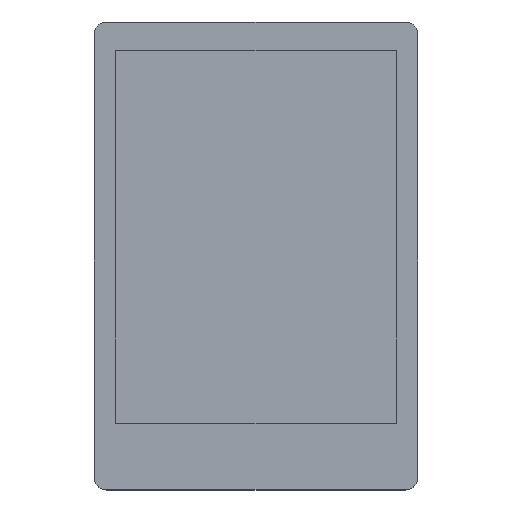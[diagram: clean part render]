
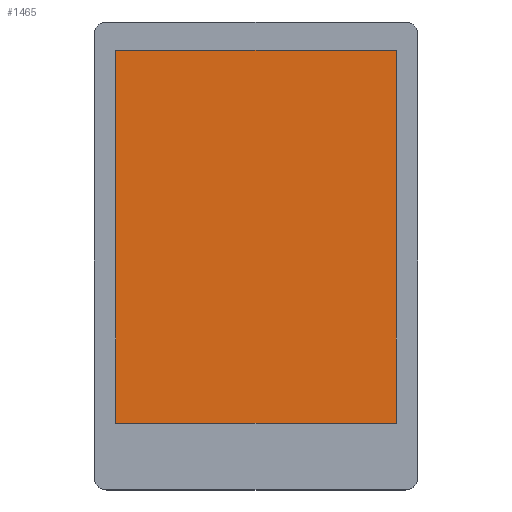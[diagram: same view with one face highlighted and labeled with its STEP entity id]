
A CAD part, top view. The second image highlights one B-rep face of the part: STEP entity #1465.
In plain terms, the highlighted planar face has unit normal (0, 0, 1).
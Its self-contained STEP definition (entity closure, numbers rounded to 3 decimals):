
#267=DIRECTION('',(1.,0.,0.));
#268=VECTOR('',#267,43.8);
#269=CARTESIAN_POINT('',(-21.9,29.1,0.65));
#270=LINE('',#269,#268);
#274=DIRECTION('',(0.,1.,0.));
#275=VECTOR('',#274,58.2);
#276=CARTESIAN_POINT('',(21.9,-29.1,0.65));
#277=LINE('',#276,#275);
#281=DIRECTION('',(1.,0.,0.));
#282=VECTOR('',#281,43.8);
#283=CARTESIAN_POINT('',(-21.9,-29.1,0.65));
#284=LINE('',#283,#282);
#288=DIRECTION('',(0.,1.,0.));
#289=VECTOR('',#288,58.2);
#290=CARTESIAN_POINT('',(-21.9,-29.1,0.65));
#291=LINE('',#290,#289);
#1100=CARTESIAN_POINT('',(-21.9,29.1,0.65));
#1101=CARTESIAN_POINT('',(21.9,29.1,0.65));
#1102=VERTEX_POINT('',#1100);
#1103=VERTEX_POINT('',#1101);
#1104=CARTESIAN_POINT('',(21.9,-29.1,0.65));
#1105=VERTEX_POINT('',#1104);
#1106=CARTESIAN_POINT('',(-21.9,-29.1,0.65));
#1107=VERTEX_POINT('',#1106);
#1451=CARTESIAN_POINT('',(0.,0.,0.65));
#1452=DIRECTION('',(0.,0.,1.));
#1453=DIRECTION('',(1.,0.,0.));
#1454=AXIS2_PLACEMENT_3D('',#1451,#1452,#1453);
#1455=PLANE('',#1454);
#1456=ORIENTED_EDGE('',*,*,#1441,.T.);
#1458=ORIENTED_EDGE('',*,*,#1457,.F.);
#1460=ORIENTED_EDGE('',*,*,#1459,.F.);
#1462=ORIENTED_EDGE('',*,*,#1461,.T.);
#1463=EDGE_LOOP('',(#1456,#1458,#1460,#1462));
#1464=FACE_OUTER_BOUND('',#1463,.F.);
#1465=ADVANCED_FACE('',(#1464),#1455,.T.);
#1441=EDGE_CURVE('',#1102,#1103,#270,.T.);
#1457=EDGE_CURVE('',#1105,#1103,#277,.T.);
#1459=EDGE_CURVE('',#1107,#1105,#284,.T.);
#1461=EDGE_CURVE('',#1107,#1102,#291,.T.);
